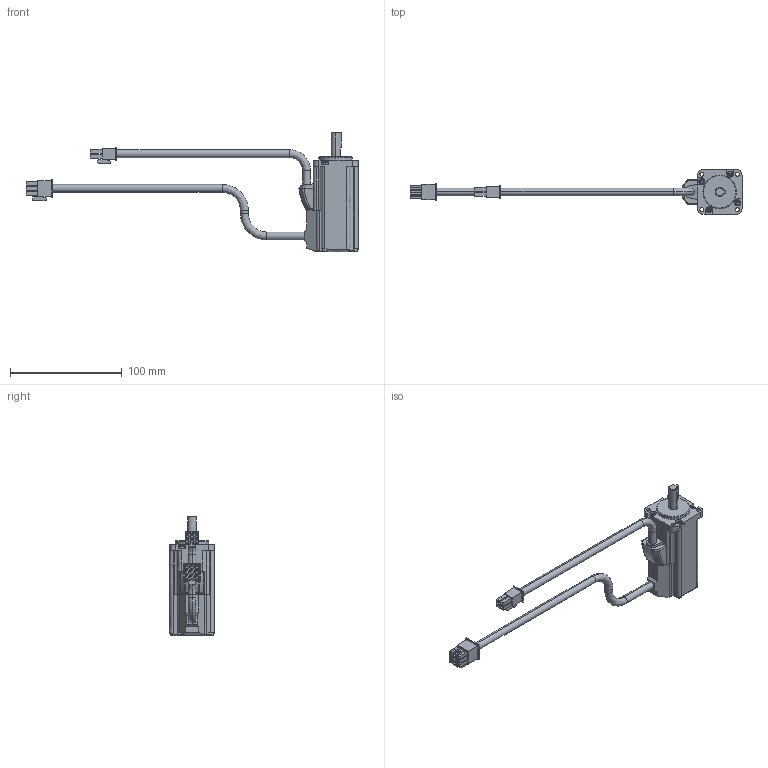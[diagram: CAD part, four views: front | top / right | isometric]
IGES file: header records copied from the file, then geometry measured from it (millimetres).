
Start section:  PTC IGES file: RSMZ-A5BA3xS.igs
Global section: file name: RSMZ-A5BA3xS.igs; native system: Pro/ENGINEER by Parametric Technology Corporation; preprocessor: 2004440; author: Administrator; organization: Unknown; date: 070904.191003; units: millimetre
Bounding box: 297.7 x 40 x 107.1 mm (x, y, z)
Volume: 146323.4 mm3; surface area: 32899.3 mm2
Topology: 1 solids, 1 shells, 463 faces, 1171 edges, 759 vertices
Faces by surface type: bspline 333, revolution 130
